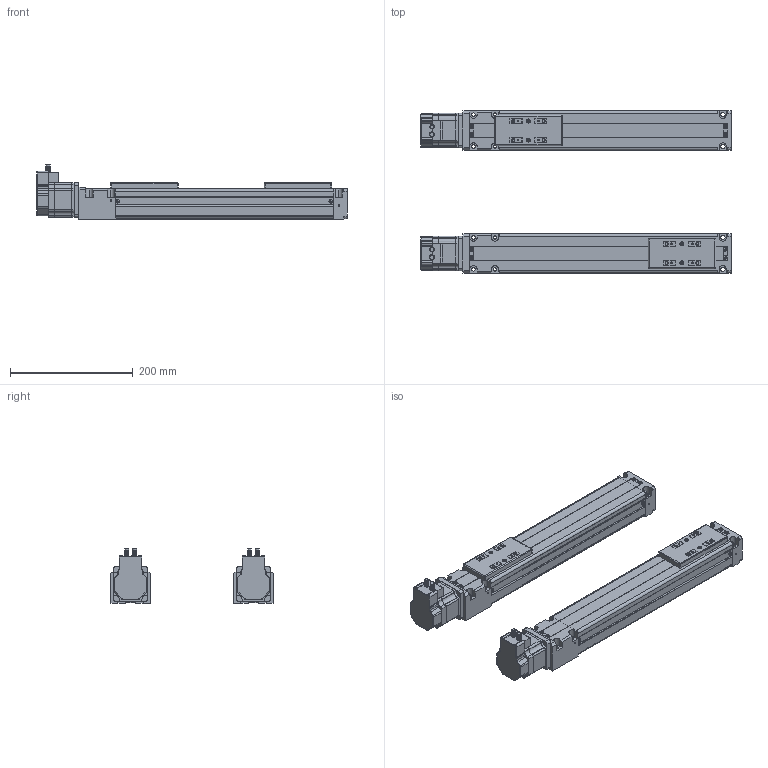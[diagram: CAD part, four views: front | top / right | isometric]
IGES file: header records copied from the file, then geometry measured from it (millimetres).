
Start section: IMSI TurboCAD v14.0
Global section: author: NULL; organization: NULL; date: 20151219.122714; units: millimetre
Bounding box: 506 x 264 x 87.99 mm (x, y, z)
Surface area: 571231.5 mm2 (no closed solid volume)
Topology: 0 solids, 0 shells, 2598 faces, 14386 edges, 14358 vertices
Faces by surface type: extrusion 1956, revolution 572, bspline 70
